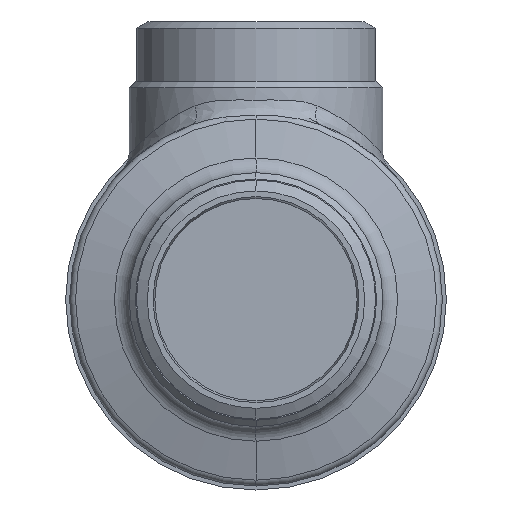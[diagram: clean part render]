
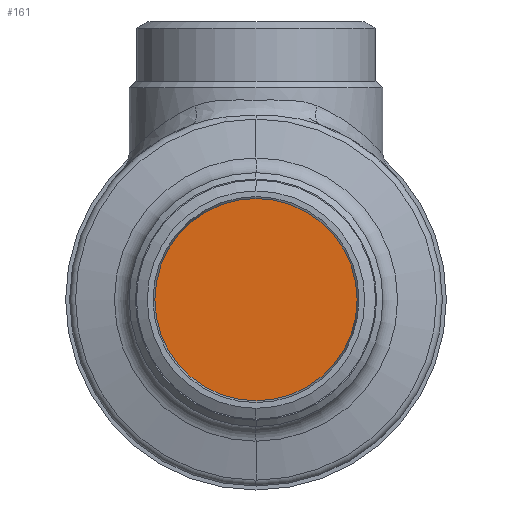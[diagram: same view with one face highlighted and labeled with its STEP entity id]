
A CAD part, front view. The second image highlights one B-rep face of the part: STEP entity #161.
In plain terms, the highlighted planar face has unit normal (0, -1, 0).
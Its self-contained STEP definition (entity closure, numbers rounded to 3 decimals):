
#161 = ADVANCED_FACE ( 'NONE', ( #9622 ), #9623, .T. ) ;
#6214 = VERTEX_POINT ( 'NONE', #10548 ) ;
#6426 = VERTEX_POINT ( 'NONE', #10720 ) ;
#6640 = EDGE_CURVE ( 'NONE', #6426, #6214, #12708, .T. ) ;
#7082 = CIRCLE ( 'NONE', #7083, 25.5 ) ;
#7083 = AXIS2_PLACEMENT_3D ( 'NONE', #7084, #7085, #7086 ) ;
#7084 = CARTESIAN_POINT ( 'NONE',  ( 0., -83., 0. ) ) ;
#7085 = DIRECTION ( 'NONE',  ( 0., -1., 0. ) ) ;
#7086 = DIRECTION ( 'NONE',  ( 0., 0., -1. ) ) ;
#9622 = FACE_OUTER_BOUND ( 'NONE', #15083, .T. ) ;
#9623 = PLANE ( 'NONE',  #9624 ) ;
#9624 = AXIS2_PLACEMENT_3D ( 'NONE', #9625, #9626, #9627 ) ;
#9625 = CARTESIAN_POINT ( 'NONE',  ( 0., -83., 0. ) ) ;
#9626 = DIRECTION ( 'NONE',  ( 0., -1., 0. ) ) ;
#9627 = DIRECTION ( 'NONE',  ( 0., 0., -1. ) ) ;
#10548 = CARTESIAN_POINT ( 'NONE',  ( 0., -83., -25.5 ) ) ;
#10720 = CARTESIAN_POINT ( 'NONE',  ( 0., -83., 25.5 ) ) ;
#12680 = ORIENTED_EDGE ( 'NONE', *, *, #6640, .T. ) ;
#12708 = CIRCLE ( 'NONE', #12709, 25.5 ) ;
#12709 = AXIS2_PLACEMENT_3D ( 'NONE', #12710, #12711, #12712 ) ;
#12710 = CARTESIAN_POINT ( 'NONE',  ( 0., -83., 0. ) ) ;
#12711 = DIRECTION ( 'NONE',  ( 0., -1., 0. ) ) ;
#12712 = DIRECTION ( 'NONE',  ( 0., 0., -1. ) ) ;
#14084 = EDGE_CURVE ( 'NONE', #6214, #6426, #7082, .T. ) ;
#14436 = ORIENTED_EDGE ( 'NONE', *, *, #14084, .T. ) ;
#15083 = EDGE_LOOP ( 'NONE', ( #14436, #12680 ) ) ;
